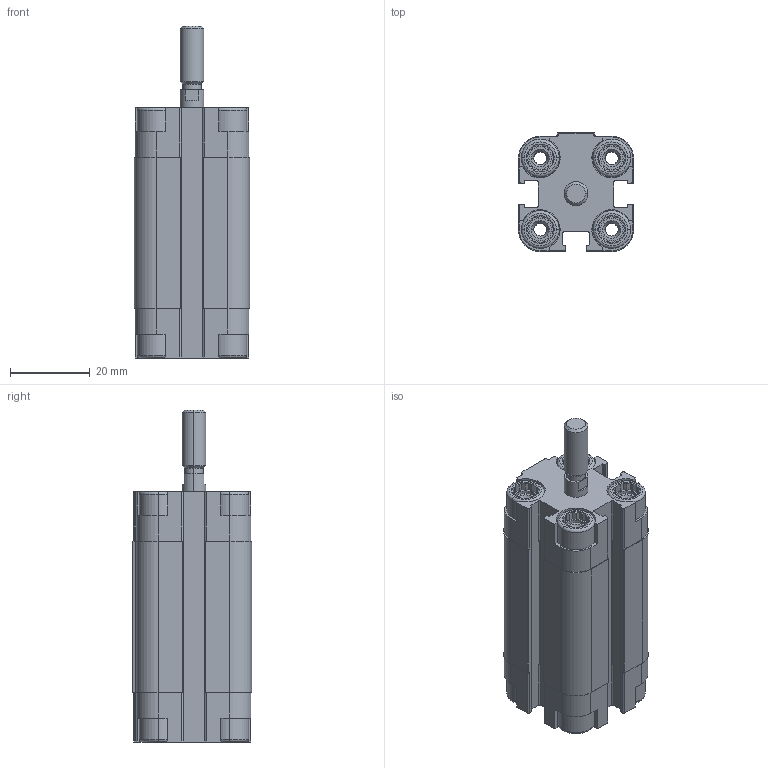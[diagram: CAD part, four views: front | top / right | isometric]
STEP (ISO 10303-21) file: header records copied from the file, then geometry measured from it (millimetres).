
FILE_DESCRIPTION (( 'STEP AP203' ), '1' );
FILE_NAME ('CDVU12-25.STEP', '2020-03-18T10:33:13', ( '' ), ( '' ), 'SwSTEP 2.0', 'SolidWorks 2019', '' );
FILE_SCHEMA (( 'CONFIG_CONTROL_DESIGN' ));
Length unit declared in the file: millimetre
Products named in the file (1): CDVU12-25
Bounding box: 29 x 30 x 83.5 mm (x, y, z)
Volume: 38115.6 mm3; surface area: 19428.1 mm2
Topology: 2 solids, 2 shells, 553 faces, 1472 edges, 958 vertices
Faces by surface type: plane 333, cylinder 158, cone 46, torus 16
Entity records: 17381 total; most frequent: CARTESIAN_POINT 3556, ORIENTED_EDGE 2936, DIRECTION 2776, EDGE_CURVE 1468, VERTEX_POINT 958, AXIS2_PLACEMENT_3D 946, VECTOR 884, LINE 884
